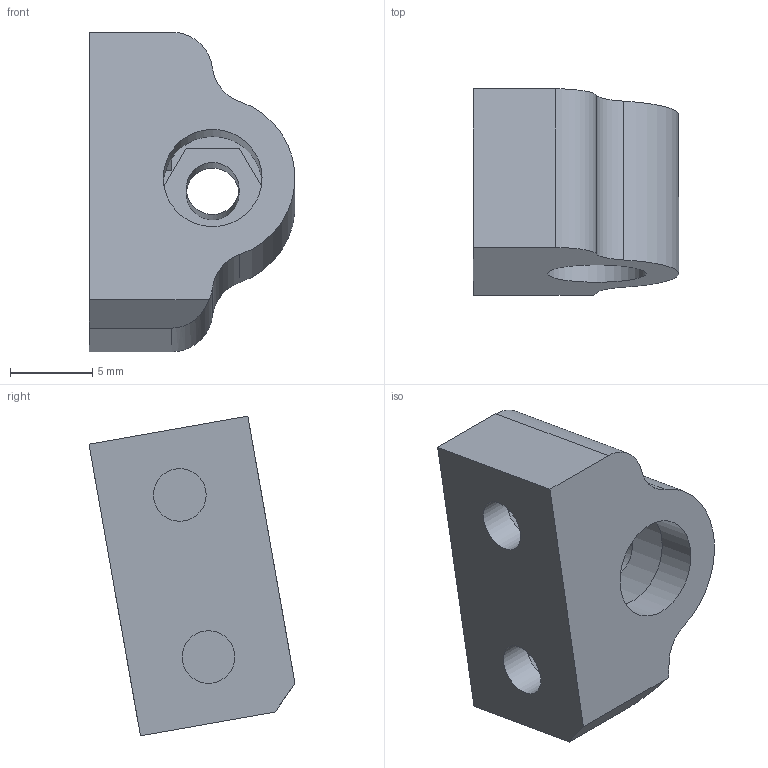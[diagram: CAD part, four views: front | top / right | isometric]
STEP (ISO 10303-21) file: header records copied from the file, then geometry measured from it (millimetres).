
FILE_DESCRIPTION(/* description */ (''),/* implementation_level */ '2;1');
FILE_NAME(/* name */ '4-27-1 Bottom wishbone mount left front TPU.step',/* time_stamp */ '2025-05-10T22:18:57+02:00',/* author */ (''),/* organization */ (''),/* preprocessor_version */ 'ST-DEVELOPER v20.1',/* originating_system */ 'Autodesk Translation Framework v14.4.0.0',/* authorisation */ '');
FILE_SCHEMA (('AUTOMOTIVE_DESIGN { 1 0 10303 214 3 1 1 }'));
Length unit declared in the file: millimetre
Products named in the file (1): Bottom wishbone mount left front TPU
Bounding box: 12.48 x 12.52 x 19.43 mm (x, y, z)
Volume: 1157.2 mm3; surface area: 1294 mm2
Topology: 1 solids, 1 shells, 39 faces, 95 edges, 63 vertices
Faces by surface type: plane 27, cylinder 11, cone 1
Full cylindrical faces by diameter (mm): 3.2 x5, 6 x1
Entity records: 1197 total; most frequent: DIRECTION 199, CARTESIAN_POINT 198, ORIENTED_EDGE 190, EDGE_CURVE 95, LINE 71, VECTOR 71, AXIS2_PLACEMENT_3D 64, VERTEX_POINT 63
